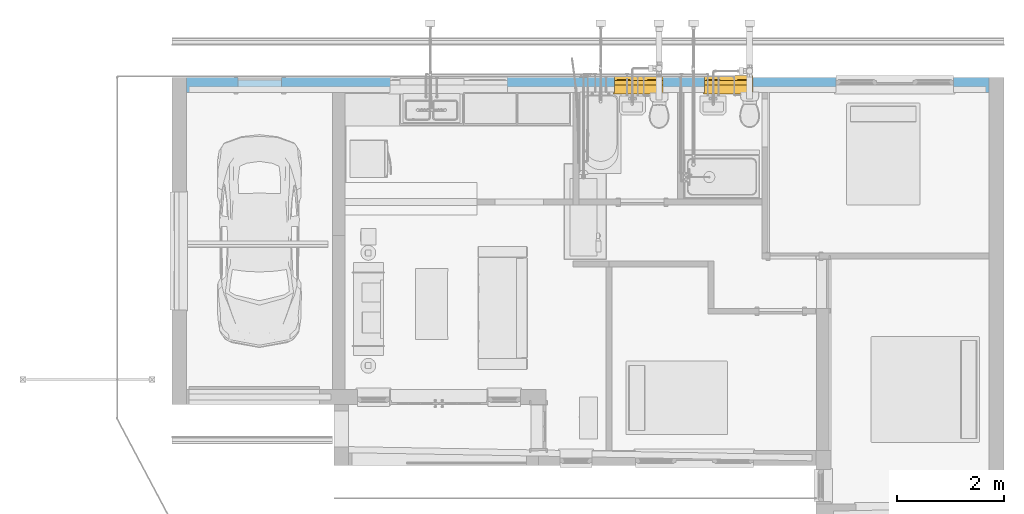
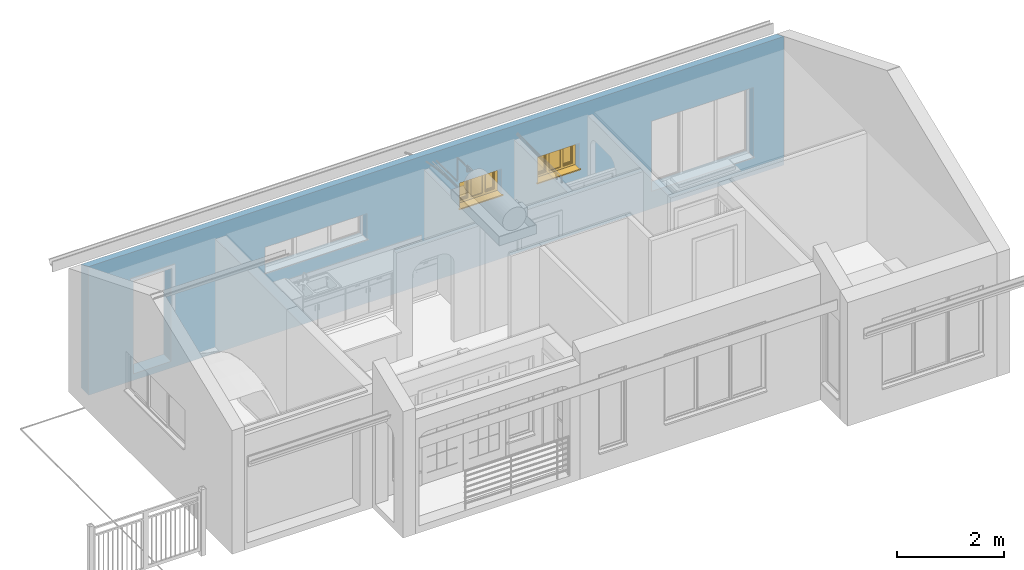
# One storey, part 6 of 41: 2 windows, 5 openings, plus 1 element that does not belong to this part.
"""IFC2X3 building model written with IfcOpenShell, lengths in millimetres."""

from ifc_helpers import new_model, entity, si_unit, converted_unit, derived_unit, direction, frame, frame_2d, origin, place, context, subcontext, project, spatial, polyline, rectangle, extrude, clip, bounded_halfspace, faceted_brep, source, transform, mapped, material, material_list, layer, layer_set, layer_usage, type_object, type_shapes, element, fill, save


model = new_model("IFC2X3")

# Units and contexts
model_context = context("Model", 3, precision=0.01, world=origin(), true_north=direction((6.12303176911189e-17, 1.0)))
body_context = subcontext(model_context, "Body", "Model", "MODEL_VIEW")
ifc_project = project(units=[si_unit("LENGTHUNIT", "METRE", prefix="MILLI"), si_unit("AREAUNIT", "SQUARE_METRE"), si_unit("VOLUMEUNIT", "CUBIC_METRE"), converted_unit("PLANEANGLEUNIT", "DEGREE", entity("IfcRatioMeasure", 0.0174532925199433), si_unit("PLANEANGLEUNIT", "RADIAN"), dimensions=[0, 0, 0, 0, 0, 0, 0]), si_unit("MASSUNIT", "GRAM", prefix="KILO"), derived_unit("MASSDENSITYUNIT", [(si_unit("MASSUNIT", "GRAM", prefix="KILO"), 1), (si_unit("LENGTHUNIT", "METRE"), -3)]), si_unit("TIMEUNIT", "SECOND"), si_unit("FREQUENCYUNIT", "HERTZ"), si_unit("THERMODYNAMICTEMPERATUREUNIT", "DEGREE_CELSIUS"), derived_unit("THERMALTRANSMITTANCEUNIT", [(si_unit("MASSUNIT", "GRAM", prefix="KILO"), 1), (si_unit("THERMODYNAMICTEMPERATUREUNIT", "KELVIN"), -1), (si_unit("TIMEUNIT", "SECOND"), -3)]), derived_unit("VOLUMETRICFLOWRATEUNIT", [(si_unit("LENGTHUNIT", "METRE"), 3), (si_unit("TIMEUNIT", "SECOND"), -1)]), si_unit("ELECTRICCURRENTUNIT", "AMPERE"), si_unit("ELECTRICVOLTAGEUNIT", "VOLT"), si_unit("POWERUNIT", "WATT"), si_unit("FORCEUNIT", "NEWTON", prefix="KILO"), si_unit("ILLUMINANCEUNIT", "LUX"), si_unit("LUMINOUSFLUXUNIT", "LUMEN"), si_unit("LUMINOUSINTENSITYUNIT", "CANDELA"), derived_unit("USERDEFINED", [(si_unit("MASSUNIT", "GRAM", prefix="KILO"), -1), (si_unit("LENGTHUNIT", "METRE"), -2), (si_unit("TIMEUNIT", "SECOND"), 3), (si_unit("LUMINOUSFLUXUNIT", "LUMEN"), 1)]), derived_unit("LINEARVELOCITYUNIT", [(si_unit("LENGTHUNIT", "METRE"), 1), (si_unit("TIMEUNIT", "SECOND"), -1)]), si_unit("PRESSUREUNIT", "PASCAL"), derived_unit("USERDEFINED", [(si_unit("LENGTHUNIT", "METRE"), -2), (si_unit("MASSUNIT", "GRAM", prefix="KILO"), 1), (si_unit("TIMEUNIT", "SECOND"), -2)])], contexts=[model_context])

# Site, building, storey
site_placement = place(None, origin())
site = spatial("IfcSite", under=ifc_project, at=site_placement, Name="Surface", CompositionType="ELEMENT")
building_placement = place(site_placement, origin())
building = spatial("IfcBuilding", under=site, at=building_placement, CompositionType="ELEMENT")
storey_placement = place(building_placement, frame((0.0, 0.0, 300.0)))
storey = spatial("IfcBuildingStorey", under=building, at=storey_placement, Name="F.F.L", CompositionType="ELEMENT", Elevation=300.0)

# Wall, openings, windows
ifc_material_1 = material(Name="Brickwork - Facebrick (Plettenberg Autumn)")
ifc_layer_1 = layer(ifc_material_1, 110.0)
ifc_material_2 = material(Name="Air Infiltration Barrier")
ifc_layer_2 = layer(ifc_material_2, 50.0)
ifc_material_3 = material(Name="Brickwork - 110mm (Stock)")
ifc_layer_3 = layer(ifc_material_3, 110.0)
ifc_material_4 = material(Name="Plaster")
ifc_layer_4 = layer(ifc_material_4, 10.0)
ifc_layer_set = layer_set([ifc_layer_1, ifc_layer_2, ifc_layer_3, ifc_layer_4], Name="Basic Wall:BrickWall - 270mm (Ext.F&Int.S)")
ifc_layer_usage = layer_usage(ifc_layer_set, "AXIS2", "NEGATIVE", 140.0)
wall_type = type_object("IfcWallType", Name="Basic Wall:BrickWall - 270mm (Ext.F&Int.S)", PredefinedType="STANDARD", material=ifc_layer_set)
wall_placement = place(storey_placement, frame((-11816.8751700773, 10685.8400891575, -150.0)))
wall = element("IfcWallStandardCase", 1, at=wall_placement, inside=storey, type_object=wall_type, material=ifc_layer_usage, Name="Basic Wall:BrickWall - 270mm (Ext.F&Int.S)", ObjectType="Basic Wall:BrickWall - 270mm (Ext.F&Int.S)", context=body_context, shape_type="Clipping", body=[
    clip(extrude(rectangle(XDim=15000.0, YDim=280.000000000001, at=frame_2d((7500.0, 1.98951966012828e-13), x_axis=(-1.0, 0.0))), origin(), (0.0, 0.0, 1.0), 2933.40741269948), bounded_halfspace(frame((0.0, -140.0, 2933.40741269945), z_axis=(0.0, 0.374606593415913, 0.927183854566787), x_axis=(-1.0, 0.0, 0.0)), False, frame((0.0, -140.0, 2933.40741269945)), polyline([(0.0, 0.0), (2730.0, 0.0), (2960.0, 0.0), (15000.0, 0.0), (15000.0, 280.0), (0.0, 280.0), (0.0, 0.0)]))),
])
opening_1_placement = place(wall_placement, frame((12140.0, -140.0, 400.0)))
element("IfcOpeningElement", 2, at=opening_1_placement, cuts=wall, Name="Tpl All Bars1:Tpl All Bars 4:1", ObjectType="Opening", context=body_context, shape_type="SweptSolid", body=[
    extrude(rectangle(XDim=1600.0, YDim=2200.0, at=frame_2d((800.0, 1100.0), x_axis=(-1.0, 0.0))), frame((0.0, 0.0, 0.0), z_axis=(0.0, 1.0, 0.0), x_axis=(0.0, 0.0, 1.0)), (0.0, 0.0, 1.0), 280.0),
])
opening_2_placement = place(wall_placement, frame((968.500000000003, -140.0, 150.0)))
element("IfcOpeningElement", 3, at=opening_2_placement, cuts=wall, Name="M_Single-Flush:0813 x 2134mm:1", ObjectType="Opening", context=body_context, shape_type="SweptSolid", body=[
    extrude(rectangle(XDim=813.0, YDim=2134.0, at=frame_2d((1067.0, 406.5), x_axis=(0.0, 1.0))), frame((0.0, 0.0, 0.0), z_axis=(0.0, 1.0, 0.0), x_axis=(0.0, 0.0, 1.0)), (0.0, 0.0, 1.0), 280.0),
])
opening_3_placement = place(wall_placement, frame((3805.0, -140.0, 1444.0)))
element("IfcOpeningElement", 4, at=opening_3_placement, cuts=wall, Name="Tpl All Bars1:Tpl All Bars 2:1", ObjectType="Opening", context=body_context, shape_type="SweptSolid", body=[
    extrude(rectangle(XDim=600.000000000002, YDim=2200.0, at=frame_2d((300.000000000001, 1100.0), x_axis=(-1.0, 0.0))), frame((0.0, 0.0, 0.0), z_axis=(0.0, 1.0, 0.0), x_axis=(0.0, 0.0, 1.0)), (0.0, 0.0, 1.0), 280.0),
])
opening_4_placement = place(wall_placement, frame((9685.0, -140.0, 1444.0)))
opening_4 = element("IfcOpeningElement", 5, at=opening_4_placement, cuts=wall, Name="Tpl All Bars1:Tpl All Bars 3:1", ObjectType="Opening", context=body_context, shape_type="SweptSolid", body=[
    extrude(rectangle(XDim=600.000000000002, YDim=899.999999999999, at=frame_2d((300.000000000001, 449.999999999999), x_axis=(-1.0, 0.0))), frame((0.0, 0.0, 0.0), z_axis=(0.0, 1.0, 0.0), x_axis=(0.0, 0.0, 1.0)), (0.0, 0.0, 1.0), 280.0),
])
opening_5_placement = place(wall_placement, frame((8005.0, -140.0, 1444.0)))
opening_5 = element("IfcOpeningElement", 6, at=opening_5_placement, cuts=wall, Name="Tpl All Bars1:Tpl All Bars 3:1", ObjectType="Opening", context=body_context, shape_type="SweptSolid", body=[
    extrude(rectangle(XDim=600.000000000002, YDim=899.999999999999, at=frame_2d((300.000000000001, 449.999999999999), x_axis=(-1.0, 0.0))), frame((0.0, 0.0, 0.0), z_axis=(0.0, 1.0, 0.0), x_axis=(0.0, 0.0, 1.0)), (0.0, 0.0, 1.0), 280.0),
])
ifc_material_5 = material(Name="Meranti - Varnish Mat")
ifc_material_6 = material(Name="Glass")
ifc_material_list_1 = material_list([ifc_material_5, ifc_material_6])
ifc_material_list_2 = material_list([ifc_material_5, ifc_material_6])
window_style = type_object("IfcWindowStyle", Name="Tpl All Bars 3", ConstructionType="NOTDEFINED", OperationType="TRIPLE_PANEL_VERTICAL", ParameterTakesPrecedence=False, Sizeable=False, material=ifc_material_list_2)
shared_shape = source(origin(), body_context, "Body", "Brep", [
    faceted_brep([(-25.0, -25.0, 0.0), (-25.0, 0.0, 0.0), (0.0, 0.0, 0.0), (0.0, 147.0, 0.0), (900.0, 147.0, 0.0), (900.0, 0.0, 0.0), (925.0, 0.0, 0.0), (925.0, -25.0, 0.0), (-25.0, -25.0, 25.0), (925.0, -25.0, 25.0), (925.0, 0.0, 25.0), (900.0, 0.0, 25.0), (900.0, 147.0, 25.0), (0.0, 147.0, 25.0), (0.0, 0.0, 25.0), (-25.0, 0.0, 25.0)], [[[0, 1, 2, 3, 4, 5, 6, 7]], [[8, 9, 10, 11, 12, 13, 14, 15]], [[1, 0, 8, 15]], [[2, 1, 15, 14]], [[3, 2, 14, 13]], [[4, 3, 13, 12]], [[5, 4, 12, 11]], [[6, 5, 11, 10]], [[7, 6, 10, 9]], [[0, 7, 9, 8]]]),
    faceted_brep([(840.0, 147.0, 540.0), (840.0, 147.0, 75.0), (633.0, 147.0, 75.0), (633.0, 147.0, 540.0), (575.0, 147.0, 540.0), (575.0, 147.0, 75.0), (325.0, 147.0, 75.0), (325.0, 147.0, 540.0), (267.0, 147.0, 540.0), (267.0, 147.0, 75.0), (60.0, 147.0, 75.0), (60.0, 147.0, 540.0), (900.0, 147.0, 600.0), (0.0, 147.0, 600.0), (0.0, 147.0, 0.0), (900.0, 147.0, 0.0), (0.0, 230.0, 600.0), (0.0, 230.0, 51.0), (0.0, 245.0, 49.6876700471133), (0.0, 245.0, 44.7449676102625), (0.0, 317.500000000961, 33.808884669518), (0.0, 317.500000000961, 0.0), (900.0, 230.0, 600.0), (900.0, 230.0, 51.0), (40.0, 230.0, 560.0), (40.0, 230.0, 63.0), (285.0, 230.0, 63.0), (285.0, 230.0, 560.0), (325.0, 230.0, 560.0), (325.0, 230.0, 63.0), (575.0, 230.0, 63.0), (575.0, 230.0, 560.0), (615.0, 230.0, 560.0), (615.0, 230.0, 63.0), (860.0, 230.0, 63.0), (860.0, 230.0, 560.0), (40.0, 165.0, 560.0), (40.0, 165.0, 63.0), (285.0, 165.0, 560.0), (285.0, 165.0, 63.0), (267.0, 165.0, 540.0), (60.0, 165.0, 540.0), (60.0, 165.0, 75.0), (267.0, 165.0, 75.0), (900.0, 317.500000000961, 0.0), (900.0, 317.500000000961, 33.808884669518), (900.0, 245.0, 44.7449676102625), (900.0, 245.0, 49.6876700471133), (860.0, 165.0, 63.0), (860.0, 165.0, 560.0), (840.0, 165.0, 540.0), (840.0, 165.0, 75.0), (325.0, 165.0, 540.0), (325.0, 165.0, 75.0), (325.0, 189.0, 560.0), (325.0, 189.0, 63.0), (315.0, 189.0, 560.0), (315.0, 189.0, 63.0), (315.0, 165.0, 560.0), (315.0, 165.0, 63.0), (585.0, 189.0, 560.0), (585.0, 189.0, 63.0), (585.0, 165.0, 63.0), (585.0, 165.0, 560.0), (575.0, 189.0, 560.0), (575.0, 189.0, 63.0), (615.0, 165.0, 560.0), (615.0, 165.0, 63.0), (633.0, 165.0, 540.0), (633.0, 165.0, 75.0), (575.0, 165.0, 540.0), (575.0, 165.0, 75.0)], [[[0, 1, 2, 3], [4, 5, 6, 7], [8, 9, 10, 11], [12, 13, 14, 15]], [[14, 13, 16, 17, 18, 19, 20, 21]], [[17, 16, 22, 23], [24, 25, 26, 27], [28, 29, 30, 31], [32, 33, 34, 35]], [[25, 24, 36, 37]], [[36, 38, 39, 37], [40, 41, 42, 43]], [[41, 11, 10, 42]], [[13, 12, 22, 16]], [[36, 24, 27, 38]], [[11, 41, 40, 8]], [[23, 22, 12, 15, 44, 45, 46, 47]], [[35, 34, 48, 49]], [[0, 50, 51, 1]], [[52, 7, 6, 53]], [[8, 40, 43, 9]], [[27, 26, 39, 38]], [[29, 28, 54, 55]], [[55, 54, 56, 57]], [[57, 56, 58, 59]], [[60, 61, 62, 63]], [[61, 60, 64, 65]], [[65, 64, 31, 30]], [[33, 32, 66, 67]], [[68, 3, 2, 69]], [[4, 70, 71, 5]], [[44, 15, 14, 21]], [[45, 44, 21, 20]], [[46, 45, 20, 19]], [[47, 46, 19, 18]], [[23, 47, 18, 17]], [[34, 33, 67, 48]], [[2, 1, 51, 69]], [[71, 53, 6, 5]], [[43, 42, 10, 9]], [[59, 62, 61, 65, 30, 29, 55, 57]], [[26, 25, 37, 39]], [[7, 52, 70, 4]], [[50, 0, 3, 68]], [[54, 28, 31, 64, 60, 63, 58, 56]], [[35, 49, 66, 32]], [[58, 63, 62, 59], [70, 52, 53, 71]], [[66, 49, 48, 67], [50, 68, 69, 51]]], outer=[[False, False, False, True], [True], [True, False, False, False], [True], [True, False], [True], [True], [True], [True], [True], [True], [True], [True], [True], [True], [True], [True], [True], [True], [True], [True], [True], [True], [True], [True], [True], [True], [True], [True], [True], [True], [True], [True], [True], [True], [True], [True], [True], [True], [True, False], [True, False]]),
    faceted_brep([(830.0, 194.0, 530.0), (645.0, 194.0, 530.0), (645.0, 194.0, 93.0), (830.0, 194.0, 93.0), (830.0, 218.0, 530.0), (830.0, 218.0, 93.0), (645.0, 218.0, 93.0), (645.0, 218.0, 530.0)], [[[0, 1, 2, 3]], [[4, 5, 6, 7]], [[1, 0, 4, 7]], [[2, 1, 7, 6]], [[3, 2, 6, 5]], [[0, 3, 5, 4]]]),
    faceted_brep([(585.0, 189.0, 560.0), (585.0, 189.0, 63.0), (315.0, 189.0, 63.0), (315.0, 189.0, 560.0), (585.0, 165.0, 560.0), (315.0, 165.0, 560.0), (315.0, 165.0, 63.0), (585.0, 165.0, 63.0)], [[[0, 1, 2, 3]], [[4, 5, 6, 7]], [[1, 0, 4, 7]], [[2, 1, 7, 6]], [[3, 2, 6, 5]], [[0, 3, 5, 4]]]),
    faceted_brep([(70.0, 194.0, 530.148037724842), (70.0, 194.0, 93.0), (255.148037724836, 194.0, 93.0), (255.148037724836, 194.0, 530.148037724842), (70.0, 218.0, 530.148037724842), (255.148037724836, 218.0, 530.148037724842), (255.148037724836, 218.0, 93.0), (70.0, 218.0, 93.0)], [[[0, 1, 2, 3]], [[4, 5, 6, 7]], [[1, 0, 4, 7]], [[2, 1, 7, 6]], [[3, 2, 6, 5]], [[0, 3, 5, 4]]]),
    faceted_brep([(295.0, 230.0, 570.0), (295.0, 235.773502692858, 570.0), (30.0, 235.773502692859, 570.0), (30.0, 230.0, 570.0), (285.0, 165.0, 560.0), (285.0, 230.0, 560.0), (40.0, 230.0, 560.0), (40.0, 165.0, 560.0), (245.0, 179.492899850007, 520.0), (255.148037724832, 165.0, 530.148037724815), (69.8519622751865, 165.0, 530.148037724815), (80.0, 179.492899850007, 520.0), (245.0, 194.0, 520.0), (80.0, 194.0, 520.0), (255.0, 218.0, 530.0), (255.0, 194.0, 530.0), (70.0, 194.0, 530.0), (70.0, 218.0, 530.0), (245.0, 235.773502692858, 520.0), (245.0, 218.0, 520.0), (80.0, 218.0, 520.0), (80.0, 235.773502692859, 520.0), (262.445754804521, 241.547005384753, 537.445754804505), (62.5542451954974, 241.547005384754, 537.445754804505), (284.215390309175, 241.547005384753, 559.215390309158), (40.7846096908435, 241.547005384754, 559.215390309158), (30.0, 235.773502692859, 53.0), (30.0, 230.0, 53.0), (40.0, 230.0, 63.0), (40.0, 165.0, 63.0), (69.8519622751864, 165.0, 92.8519622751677), (80.0, 179.492899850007, 103.0), (80.0, 194.0, 103.0), (70.0, 194.0, 93.0), (70.0, 218.0, 93.0), (80.0, 218.0, 103.0), (80.0, 235.773502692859, 103.0), (62.5542451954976, 241.547005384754, 85.5542451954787), (40.7846096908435, 241.547005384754, 63.7846096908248), (295.0, 235.773502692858, 53.0), (295.0, 230.0, 53.0), (285.0, 230.0, 63.0), (285.0, 165.0, 63.0), (255.148037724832, 165.0, 92.8519622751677), (245.0, 179.492899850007, 103.0), (245.0, 194.0, 103.0), (255.0, 194.0, 93.0), (255.0, 218.0, 93.0), (245.0, 218.0, 103.0), (245.0, 235.773502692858, 103.0), (262.445754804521, 241.547005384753, 85.5542451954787), (284.215390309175, 241.547005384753, 63.7846096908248)], [[[0, 1, 2, 3]], [[4, 5, 6, 7]], [[8, 9, 10, 11]], [[12, 8, 11, 13]], [[14, 15, 16, 17]], [[18, 19, 20, 21]], [[22, 18, 21, 23]], [[1, 24, 25, 2]], [[3, 2, 26, 27]], [[7, 6, 28, 29]], [[11, 10, 30, 31]], [[13, 11, 31, 32]], [[17, 16, 33, 34]], [[21, 20, 35, 36]], [[23, 21, 36, 37]], [[2, 25, 38, 26]], [[27, 26, 39, 40]], [[0, 3, 27, 40], [41, 28, 6, 5]], [[29, 28, 41, 42]], [[4, 7, 29, 42], [43, 30, 10, 9]], [[31, 30, 43, 44]], [[32, 31, 44, 45]], [[12, 13, 32, 45], [46, 33, 16, 15]], [[34, 33, 46, 47]], [[14, 17, 34, 47], [48, 35, 20, 19]], [[36, 35, 48, 49]], [[37, 36, 49, 50]], [[22, 23, 37, 50], [51, 38, 25, 24]], [[26, 38, 51, 39]], [[40, 39, 1, 0]], [[42, 41, 5, 4]], [[44, 43, 9, 8]], [[45, 44, 8, 12]], [[47, 46, 15, 14]], [[49, 48, 19, 18]], [[50, 49, 18, 22]], [[39, 51, 24, 1]]], outer=[[True], [True], [True], [True], [True], [True], [True], [True], [True], [True], [True], [True], [True], [True], [True], [True], [True], [True, False], [True], [True, False], [True], [True], [False, True], [True], [True, False], [True], [True], [False, True], [True], [True], [True], [True], [True], [True], [True], [True], [True]]),
    faceted_brep([(605.0, 230.0, 570.0), (605.0, 235.773502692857, 570.0), (605.0, 235.773502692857, 53.0), (605.0, 230.0, 53.0), (615.0, 165.0, 560.0), (615.0, 230.0, 560.0), (615.0, 230.0, 63.0), (615.0, 165.0, 63.0), (655.0, 179.492899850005, 520.0), (644.851962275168, 165.0, 530.148037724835), (644.851962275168, 165.0, 92.8519622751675), (655.0, 179.492899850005, 103.0), (655.0, 194.0, 520.0), (655.0, 194.0, 103.0), (645.0, 218.0, 530.0), (645.0, 194.0, 530.0), (645.0, 194.0, 93.0), (645.0, 218.0, 93.0), (655.0, 235.773502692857, 520.0), (655.0, 218.0, 520.0), (655.0, 218.0, 103.0), (655.0, 235.773502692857, 103.0), (637.55424519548, 241.547005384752, 537.445754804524), (637.55424519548, 241.547005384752, 85.5542451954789), (615.784609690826, 241.547005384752, 559.215390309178), (615.784609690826, 241.547005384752, 63.7846096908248), (870.0, 235.773502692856, 53.0), (870.0, 230.0, 53.0), (860.0, 230.0, 63.0), (860.0, 165.0, 63.0), (830.148037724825, 165.0, 92.8519622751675), (820.0, 179.492899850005, 103.0), (820.0, 194.0, 103.0), (830.0, 194.0, 93.0), (830.0, 218.0, 93.0), (820.0, 218.0, 103.0), (820.0, 235.773502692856, 103.0), (837.445754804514, 241.547005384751, 85.5542451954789), (859.215390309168, 241.547005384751, 63.784609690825), (870.0, 235.773502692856, 570.0), (870.0, 230.0, 570.0), (860.0, 230.0, 560.0), (860.0, 165.0, 560.0), (830.148037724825, 165.0, 530.148037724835), (820.0, 179.492899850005, 520.0), (820.0, 194.0, 520.0), (830.0, 194.0, 530.0), (830.0, 218.0, 530.0), (820.0, 218.0, 520.0), (820.0, 235.773502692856, 520.0), (837.445754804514, 241.547005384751, 537.445754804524), (859.215390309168, 241.547005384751, 559.215390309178)], [[[0, 1, 2, 3]], [[4, 5, 6, 7]], [[8, 9, 10, 11]], [[12, 8, 11, 13]], [[14, 15, 16, 17]], [[18, 19, 20, 21]], [[22, 18, 21, 23]], [[1, 24, 25, 2]], [[3, 2, 26, 27]], [[7, 6, 28, 29]], [[11, 10, 30, 31]], [[13, 11, 31, 32]], [[17, 16, 33, 34]], [[21, 20, 35, 36]], [[23, 21, 36, 37]], [[2, 25, 38, 26]], [[27, 26, 39, 40]], [[29, 28, 41, 42]], [[31, 30, 43, 44]], [[32, 31, 44, 45]], [[34, 33, 46, 47]], [[36, 35, 48, 49]], [[37, 36, 49, 50]], [[26, 38, 51, 39]], [[40, 39, 1, 0]], [[3, 27, 40, 0], [5, 41, 28, 6]], [[42, 41, 5, 4]], [[7, 29, 42, 4], [9, 43, 30, 10]], [[44, 43, 9, 8]], [[45, 44, 8, 12]], [[13, 32, 45, 12], [15, 46, 33, 16]], [[47, 46, 15, 14]], [[17, 34, 47, 14], [19, 48, 35, 20]], [[49, 48, 19, 18]], [[50, 49, 18, 22]], [[23, 37, 50, 22], [24, 51, 38, 25]], [[39, 51, 24, 1]]], outer=[[True], [True], [True], [True], [True], [True], [True], [True], [True], [True], [True], [True], [True], [True], [True], [True], [True], [True], [True], [True], [True], [True], [True], [True], [True], [True, False], [True], [True, False], [True], [True], [False, True], [True], [True, False], [True], [True], [False, True], [True]]),
    faceted_brep([(440.0, 173.0, 63.0), (460.0, 173.0, 63.0), (460.0, 173.0, 218.666666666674), (585.0, 173.0, 218.666666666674), (585.0, 173.0, 238.666666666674), (460.0, 173.0, 238.666666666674), (460.0, 173.0, 384.333333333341), (585.0, 173.0, 384.333333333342), (585.0, 173.0, 404.333333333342), (460.0, 173.0, 404.333333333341), (460.0, 173.0, 560.0), (440.0, 173.0, 560.0), (440.0, 173.0, 404.333333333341), (315.0, 173.0, 404.333333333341), (315.0, 173.0, 384.333333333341), (440.0, 173.0, 384.333333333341), (440.0, 173.0, 238.666666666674), (315.0, 173.0, 238.666666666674), (315.0, 173.0, 218.666666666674), (440.0, 173.0, 218.666666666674), (440.0, 181.0, 63.0), (440.0, 181.0, 218.666666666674), (315.0, 181.0, 218.666666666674), (315.0, 181.0, 238.666666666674), (440.0, 181.0, 238.666666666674), (440.0, 181.0, 384.333333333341), (315.0, 181.0, 384.333333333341), (315.0, 181.0, 404.333333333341), (440.0, 181.0, 404.333333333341), (440.0, 181.0, 560.0), (460.0, 181.0, 560.0), (460.0, 181.0, 404.333333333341), (585.0, 181.0, 404.333333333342), (585.0, 181.0, 384.333333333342), (460.0, 181.0, 384.333333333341), (460.0, 181.0, 238.666666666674), (585.0, 181.0, 238.666666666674), (585.0, 181.0, 218.666666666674), (460.0, 181.0, 218.666666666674), (460.0, 181.0, 63.0)], [[[0, 1, 2, 3, 4, 5, 6, 7, 8, 9, 10, 11, 12, 13, 14, 15, 16, 17, 18, 19]], [[20, 21, 22, 23, 24, 25, 26, 27, 28, 29, 30, 31, 32, 33, 34, 35, 36, 37, 38, 39]], [[1, 0, 20, 39]], [[2, 1, 39, 38]], [[3, 2, 38, 37]], [[4, 3, 37, 36]], [[5, 4, 36, 35]], [[6, 5, 35, 34]], [[7, 6, 34, 33]], [[8, 7, 33, 32]], [[9, 8, 32, 31]], [[10, 9, 31, 30]], [[11, 10, 30, 29]], [[12, 11, 29, 28]], [[13, 12, 28, 27]], [[14, 13, 27, 26]], [[15, 14, 26, 25]], [[16, 15, 25, 24]], [[17, 16, 24, 23]], [[18, 17, 23, 22]], [[19, 18, 22, 21]], [[0, 19, 21, 20]]]),
    faceted_brep([(152.50000000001, 210.0, 93.0), (152.50000000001, 210.0, 218.666666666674), (70.0, 210.0, 218.666666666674), (70.0, 210.0, 238.666666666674), (152.50000000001, 210.0, 238.666666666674), (152.50000000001, 210.0, 384.333333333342), (70.0, 210.0, 384.333333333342), (70.0, 210.0, 404.333333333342), (152.50000000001, 210.0, 404.333333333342), (152.50000000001, 210.0, 530.0), (172.50000000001, 210.0, 530.0), (172.50000000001, 210.0, 404.333333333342), (255.0, 210.0, 404.333333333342), (255.0, 210.0, 384.333333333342), (172.50000000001, 210.0, 384.333333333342), (172.50000000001, 210.0, 238.666666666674), (255.0, 210.0, 238.666666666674), (255.0, 210.0, 218.666666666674), (172.50000000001, 210.0, 218.666666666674), (172.50000000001, 210.0, 93.0), (152.50000000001, 202.0, 93.0), (172.50000000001, 202.0, 93.0), (172.50000000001, 202.0, 218.666666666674), (255.0, 202.0, 218.666666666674), (255.0, 202.0, 238.666666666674), (172.50000000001, 202.0, 238.666666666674), (172.50000000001, 202.0, 384.333333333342), (255.0, 202.0, 384.333333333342), (255.0, 202.0, 404.333333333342), (172.50000000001, 202.0, 404.333333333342), (172.50000000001, 202.0, 530.0), (152.50000000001, 202.0, 530.0), (152.50000000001, 202.0, 404.333333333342), (70.0, 202.0, 404.333333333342), (70.0, 202.0, 384.333333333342), (152.50000000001, 202.0, 384.333333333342), (152.50000000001, 202.0, 238.666666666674), (70.0, 202.0, 238.666666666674), (70.0, 202.0, 218.666666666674), (152.50000000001, 202.0, 218.666666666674)], [[[0, 1, 2, 3, 4, 5, 6, 7, 8, 9, 10, 11, 12, 13, 14, 15, 16, 17, 18, 19]], [[20, 21, 22, 23, 24, 25, 26, 27, 28, 29, 30, 31, 32, 33, 34, 35, 36, 37, 38, 39]], [[1, 0, 20, 39]], [[2, 1, 39, 38]], [[3, 2, 38, 37]], [[4, 3, 37, 36]], [[5, 4, 36, 35]], [[6, 5, 35, 34]], [[7, 6, 34, 33]], [[8, 7, 33, 32]], [[9, 8, 32, 31]], [[10, 9, 31, 30]], [[11, 10, 30, 29]], [[12, 11, 29, 28]], [[13, 12, 28, 27]], [[14, 13, 27, 26]], [[15, 14, 26, 25]], [[16, 15, 25, 24]], [[17, 16, 24, 23]], [[18, 17, 23, 22]], [[19, 18, 22, 21]], [[0, 19, 21, 20]]]),
    faceted_brep([(727.499999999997, 210.0, 232.0), (727.499999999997, 210.0, 93.0), (727.499999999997, 202.0, 93.0), (727.499999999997, 202.0, 232.0), (645.0, 210.0, 232.0), (645.0, 202.0, 232.0), (645.0, 210.0, 252.0), (645.0, 202.0, 252.0), (727.499999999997, 210.0, 252.0), (727.499999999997, 202.0, 252.0), (727.499999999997, 210.0, 384.333333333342), (727.499999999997, 202.0, 384.333333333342), (645.0, 210.0, 384.333333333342), (645.0, 202.0, 384.333333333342), (645.0, 210.0, 404.333333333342), (645.0, 202.0, 404.333333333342), (727.499999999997, 210.0, 404.333333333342), (727.499999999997, 202.0, 404.333333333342), (727.499999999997, 210.0, 530.0), (727.499999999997, 202.0, 530.0), (747.499999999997, 210.0, 530.0), (747.499999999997, 202.0, 530.0), (747.499999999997, 210.0, 404.333333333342), (747.499999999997, 202.0, 404.333333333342), (830.0, 210.0, 404.333333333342), (830.0, 202.0, 404.333333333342), (830.0, 210.0, 384.333333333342), (830.0, 202.0, 384.333333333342), (747.499999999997, 210.0, 384.333333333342), (747.499999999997, 202.0, 384.333333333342), (747.499999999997, 210.0, 252.0), (747.499999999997, 202.0, 252.0), (830.0, 210.0, 252.0), (830.0, 202.0, 252.0), (830.0, 210.0, 232.0), (830.0, 202.0, 232.0), (747.499999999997, 210.0, 232.0), (747.499999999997, 202.0, 232.0), (747.499999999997, 210.0, 93.0), (747.499999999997, 202.0, 93.0)], [[[0, 1, 2, 3]], [[4, 0, 3, 5]], [[6, 4, 5, 7]], [[8, 6, 7, 9]], [[10, 8, 9, 11]], [[12, 10, 11, 13]], [[14, 12, 13, 15]], [[16, 14, 15, 17]], [[18, 16, 17, 19]], [[20, 18, 19, 21]], [[22, 20, 21, 23]], [[24, 22, 23, 25]], [[26, 24, 25, 27]], [[28, 26, 27, 29]], [[30, 28, 29, 31]], [[32, 30, 31, 33]], [[34, 32, 33, 35]], [[36, 34, 35, 37]], [[38, 36, 37, 39]], [[1, 38, 39, 2]], [[2, 39, 37, 35, 33, 31, 29, 27, 25, 23, 21, 19, 17, 15, 13, 11, 9, 7, 5, 3]], [[1, 0, 4, 6, 8, 10, 12, 14, 16, 18, 20, 22, 24, 26, 28, 30, 32, 34, 36, 38]]]),
])
type_shapes(window_style, [shared_shape])
window_1_placement = place(opening_4_placement, origin())
window_1 = element("IfcWindow", 7, at=window_1_placement, inside=storey, type_object=window_style, material=ifc_material_list_1, Name="Tpl All Bars1:Tpl All Bars 3", ObjectType="Tpl All Bars 3", OverallHeight=600.000000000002, OverallWidth=899.999999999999, context=body_context, shape_type="MappedRepresentation", body=[
    mapped(shared_shape, transform((0.0, 0.0, 0.0), scale=1.0)),
])
fill(opening_4, window_1)
ifc_material_list_3 = material_list([ifc_material_5, ifc_material_6])
window_2_placement = place(opening_5_placement, origin())
window_2 = element("IfcWindow", 8, at=window_2_placement, inside=storey, type_object=window_style, material=ifc_material_list_3, Name="Tpl All Bars1:Tpl All Bars 3", ObjectType="Tpl All Bars 3", OverallHeight=600.000000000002, OverallWidth=899.999999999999, context=body_context, shape_type="MappedRepresentation", body=[
    mapped(shared_shape, transform((0.0, 0.0, 0.0), scale=1.0)),
])
fill(opening_5, window_2)

save(model, "model.ifc")
